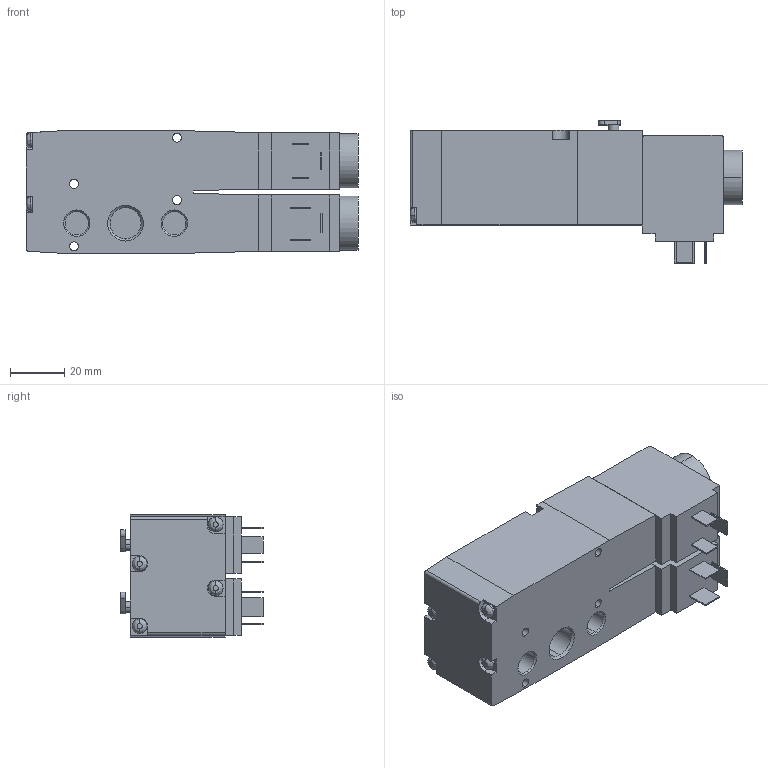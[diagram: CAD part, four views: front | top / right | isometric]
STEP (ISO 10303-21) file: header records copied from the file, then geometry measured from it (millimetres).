
FILE_DESCRIPTION (( 'STEP AP203' ), '1' );
FILE_NAME ('VB5222-5D-02.STEP', '2021-11-26T10:47:56', ( '' ), ( '' ), 'SwSTEP 2.0', 'SolidWorks 2019', '' );
FILE_SCHEMA (( 'CONFIG_CONTROL_DESIGN' ));
Length unit declared in the file: millimetre
Products named in the file (1): VB5222-5D-02
Bounding box: 122.4 x 52.4 x 45 mm (x, y, z)
Volume: 178866.2 mm3; surface area: 30964.8 mm2
Topology: 1 solids, 1 shells, 192 faces, 463 edges, 296 vertices
Faces by surface type: plane 107, cylinder 57, cone 20, bspline 8
Entity records: 5842 total; most frequent: CARTESIAN_POINT 1192, DIRECTION 967, ORIENTED_EDGE 926, EDGE_CURVE 463, AXIS2_PLACEMENT_3D 327, LINE 313, VECTOR 313, VERTEX_POINT 296
